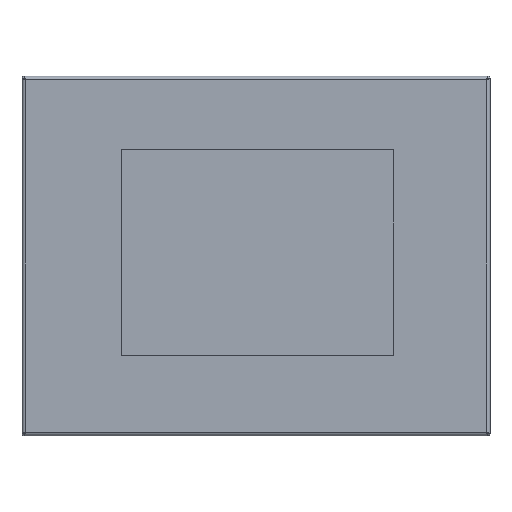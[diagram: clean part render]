
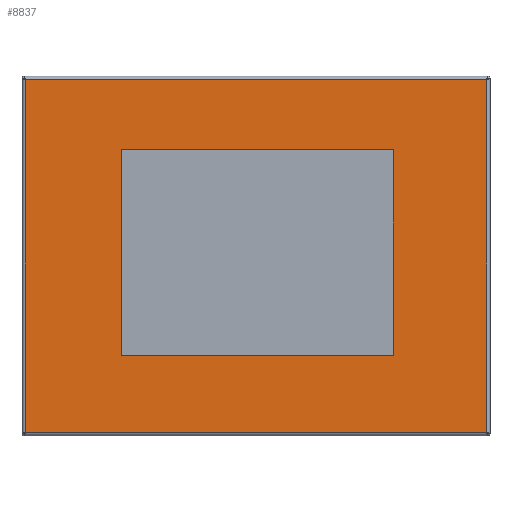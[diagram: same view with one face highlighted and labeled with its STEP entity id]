
A CAD part, top view. The second image highlights one B-rep face of the part: STEP entity #8837.
In plain terms, the highlighted planar face has unit normal (0, 0, 1).
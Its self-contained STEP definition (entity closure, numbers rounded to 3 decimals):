
#7988 = CYLINDRICAL_SURFACE('',#7989,1.5);
#7989 = AXIS2_PLACEMENT_3D('',#7990,#7991,#7992);
#7990 = CARTESIAN_POINT('',(-194.,145.5,4.5));
#7991 = DIRECTION('',(1.,0.,0.));
#7992 = DIRECTION('',(0.,1.,0.));
#8087 = VERTEX_POINT('',#8088);
#8088 = CARTESIAN_POINT('',(-192.5,145.5,6.));
#8178 = EDGE_CURVE('',#8087,#8179,#8181,.T.);
#8179 = VERTEX_POINT('',#8180);
#8180 = CARTESIAN_POINT('',(7.5,145.5,6.));
#8181 = SURFACE_CURVE('',#8182,(#8186,#8193),.PCURVE_S1.);
#8182 = LINE('',#8183,#8184);
#8183 = CARTESIAN_POINT('',(-194.,145.5,6.));
#8184 = VECTOR('',#8185,1.);
#8185 = DIRECTION('',(1.,0.,0.));
#8186 = PCURVE('',#7988,#8187);
#8187 = DEFINITIONAL_REPRESENTATION('',(#8188),#8192);
#8188 = LINE('',#8189,#8190);
#8189 = CARTESIAN_POINT('',(1.571,0.));
#8190 = VECTOR('',#8191,1.);
#8191 = DIRECTION('',(0.,1.));
#8192 = ( GEOMETRIC_REPRESENTATION_CONTEXT(2) 
PARAMETRIC_REPRESENTATION_CONTEXT() REPRESENTATION_CONTEXT('2D SPACE',''
  ) );
#8193 = PCURVE('',#8194,#8199);
#8194 = PLANE('',#8195);
#8195 = AXIS2_PLACEMENT_3D('',#8196,#8197,#8198);
#8196 = CARTESIAN_POINT('',(-92.5,69.,6.));
#8197 = DIRECTION('',(-0.,-0.,-1.));
#8198 = DIRECTION('',(-1.,0.,0.));
#8199 = DEFINITIONAL_REPRESENTATION('',(#8200),#8204);
#8200 = LINE('',#8201,#8202);
#8201 = CARTESIAN_POINT('',(101.5,76.5));
#8202 = VECTOR('',#8203,1.);
#8203 = DIRECTION('',(-1.,0.));
#8204 = ( GEOMETRIC_REPRESENTATION_CONTEXT(2) 
PARAMETRIC_REPRESENTATION_CONTEXT() REPRESENTATION_CONTEXT('2D SPACE',''
  ) );
#8753 = CYLINDRICAL_SURFACE('',#8754,1.5);
#8754 = AXIS2_PLACEMENT_3D('',#8755,#8756,#8757);
#8755 = CARTESIAN_POINT('',(-192.5,-9.,4.5));
#8756 = DIRECTION('',(0.,1.,0.));
#8757 = DIRECTION('',(-1.,0.,0.));
#8810 = CYLINDRICAL_SURFACE('',#8811,1.5);
#8811 = AXIS2_PLACEMENT_3D('',#8812,#8813,#8814);
#8812 = CARTESIAN_POINT('',(7.5,147.,4.5));
#8813 = DIRECTION('',(0.,-1.,0.));
#8814 = DIRECTION('',(1.,0.,0.));
#8837 = ADVANCED_FACE('',(#8838,#8913),#8194,.F.);
#8838 = FACE_BOUND('',#8839,.F.);
#8839 = EDGE_LOOP('',(#8840,#8863,#8864,#8887));
#8840 = ORIENTED_EDGE('',*,*,#8841,.T.);
#8841 = EDGE_CURVE('',#8842,#8087,#8844,.T.);
#8842 = VERTEX_POINT('',#8843);
#8843 = CARTESIAN_POINT('',(-192.5,-7.5,6.));
#8844 = SURFACE_CURVE('',#8845,(#8849,#8856),.PCURVE_S1.);
#8845 = LINE('',#8846,#8847);
#8846 = CARTESIAN_POINT('',(-192.5,-9.,6.));
#8847 = VECTOR('',#8848,1.);
#8848 = DIRECTION('',(0.,1.,0.));
#8849 = PCURVE('',#8194,#8850);
#8850 = DEFINITIONAL_REPRESENTATION('',(#8851),#8855);
#8851 = LINE('',#8852,#8853);
#8852 = CARTESIAN_POINT('',(100.,-78.));
#8853 = VECTOR('',#8854,1.);
#8854 = DIRECTION('',(0.,1.));
#8855 = ( GEOMETRIC_REPRESENTATION_CONTEXT(2) 
PARAMETRIC_REPRESENTATION_CONTEXT() REPRESENTATION_CONTEXT('2D SPACE',''
  ) );
#8856 = PCURVE('',#8753,#8857);
#8857 = DEFINITIONAL_REPRESENTATION('',(#8858),#8862);
#8858 = LINE('',#8859,#8860);
#8859 = CARTESIAN_POINT('',(1.571,0.));
#8860 = VECTOR('',#8861,1.);
#8861 = DIRECTION('',(0.,1.));
#8862 = ( GEOMETRIC_REPRESENTATION_CONTEXT(2) 
PARAMETRIC_REPRESENTATION_CONTEXT() REPRESENTATION_CONTEXT('2D SPACE',''
  ) );
#8863 = ORIENTED_EDGE('',*,*,#8178,.T.);
#8864 = ORIENTED_EDGE('',*,*,#8865,.T.);
#8865 = EDGE_CURVE('',#8179,#8866,#8868,.T.);
#8866 = VERTEX_POINT('',#8867);
#8867 = CARTESIAN_POINT('',(7.5,-7.5,6.));
#8868 = SURFACE_CURVE('',#8869,(#8873,#8880),.PCURVE_S1.);
#8869 = LINE('',#8870,#8871);
#8870 = CARTESIAN_POINT('',(7.5,147.,6.));
#8871 = VECTOR('',#8872,1.);
#8872 = DIRECTION('',(0.,-1.,0.));
#8873 = PCURVE('',#8194,#8874);
#8874 = DEFINITIONAL_REPRESENTATION('',(#8875),#8879);
#8875 = LINE('',#8876,#8877);
#8876 = CARTESIAN_POINT('',(-100.,78.));
#8877 = VECTOR('',#8878,1.);
#8878 = DIRECTION('',(0.,-1.));
#8879 = ( GEOMETRIC_REPRESENTATION_CONTEXT(2) 
PARAMETRIC_REPRESENTATION_CONTEXT() REPRESENTATION_CONTEXT('2D SPACE',''
  ) );
#8880 = PCURVE('',#8810,#8881);
#8881 = DEFINITIONAL_REPRESENTATION('',(#8882),#8886);
#8882 = LINE('',#8883,#8884);
#8883 = CARTESIAN_POINT('',(1.571,0.));
#8884 = VECTOR('',#8885,1.);
#8885 = DIRECTION('',(0.,1.));
#8886 = ( GEOMETRIC_REPRESENTATION_CONTEXT(2) 
PARAMETRIC_REPRESENTATION_CONTEXT() REPRESENTATION_CONTEXT('2D SPACE',''
  ) );
#8887 = ORIENTED_EDGE('',*,*,#8888,.T.);
#8888 = EDGE_CURVE('',#8866,#8842,#8889,.T.);
#8889 = SURFACE_CURVE('',#8890,(#8894,#8901),.PCURVE_S1.);
#8890 = LINE('',#8891,#8892);
#8891 = CARTESIAN_POINT('',(9.,-7.5,6.));
#8892 = VECTOR('',#8893,1.);
#8893 = DIRECTION('',(-1.,0.,0.));
#8894 = PCURVE('',#8194,#8895);
#8895 = DEFINITIONAL_REPRESENTATION('',(#8896),#8900);
#8896 = LINE('',#8897,#8898);
#8897 = CARTESIAN_POINT('',(-101.5,-76.5));
#8898 = VECTOR('',#8899,1.);
#8899 = DIRECTION('',(1.,0.));
#8900 = ( GEOMETRIC_REPRESENTATION_CONTEXT(2) 
PARAMETRIC_REPRESENTATION_CONTEXT() REPRESENTATION_CONTEXT('2D SPACE',''
  ) );
#8901 = PCURVE('',#8902,#8907);
#8902 = CYLINDRICAL_SURFACE('',#8903,1.5);
#8903 = AXIS2_PLACEMENT_3D('',#8904,#8905,#8906);
#8904 = CARTESIAN_POINT('',(9.,-7.5,4.5));
#8905 = DIRECTION('',(-1.,0.,0.));
#8906 = DIRECTION('',(0.,0.,1.));
#8907 = DEFINITIONAL_REPRESENTATION('',(#8908),#8912);
#8908 = LINE('',#8909,#8910);
#8909 = CARTESIAN_POINT('',(-0.,0.));
#8910 = VECTOR('',#8911,1.);
#8911 = DIRECTION('',(-0.,1.));
#8912 = ( GEOMETRIC_REPRESENTATION_CONTEXT(2) 
PARAMETRIC_REPRESENTATION_CONTEXT() REPRESENTATION_CONTEXT('2D SPACE',''
  ) );
#8913 = FACE_BOUND('',#8914,.F.);
#8914 = EDGE_LOOP('',(#8915,#8945,#8973,#9001));
#8915 = ORIENTED_EDGE('',*,*,#8916,.F.);
#8916 = EDGE_CURVE('',#8917,#8919,#8921,.T.);
#8917 = VERTEX_POINT('',#8918);
#8918 = CARTESIAN_POINT('',(-151.,115.,6.));
#8919 = VERTEX_POINT('',#8920);
#8920 = CARTESIAN_POINT('',(-33.,115.,6.));
#8921 = SURFACE_CURVE('',#8922,(#8926,#8933),.PCURVE_S1.);
#8922 = LINE('',#8923,#8924);
#8923 = CARTESIAN_POINT('',(-151.,115.,6.));
#8924 = VECTOR('',#8925,1.);
#8925 = DIRECTION('',(1.,0.,0.));
#8926 = PCURVE('',#8194,#8927);
#8927 = DEFINITIONAL_REPRESENTATION('',(#8928),#8932);
#8928 = LINE('',#8929,#8930);
#8929 = CARTESIAN_POINT('',(58.5,46.));
#8930 = VECTOR('',#8931,1.);
#8931 = DIRECTION('',(-1.,0.));
#8932 = ( GEOMETRIC_REPRESENTATION_CONTEXT(2) 
PARAMETRIC_REPRESENTATION_CONTEXT() REPRESENTATION_CONTEXT('2D SPACE',''
  ) );
#8933 = PCURVE('',#8934,#8939);
#8934 = PLANE('',#8935);
#8935 = AXIS2_PLACEMENT_3D('',#8936,#8937,#8938);
#8936 = CARTESIAN_POINT('',(-151.,115.,6.));
#8937 = DIRECTION('',(0.,-1.,0.));
#8938 = DIRECTION('',(1.,0.,0.));
#8939 = DEFINITIONAL_REPRESENTATION('',(#8940),#8944);
#8940 = LINE('',#8941,#8942);
#8941 = CARTESIAN_POINT('',(0.,0.));
#8942 = VECTOR('',#8943,1.);
#8943 = DIRECTION('',(1.,0.));
#8944 = ( GEOMETRIC_REPRESENTATION_CONTEXT(2) 
PARAMETRIC_REPRESENTATION_CONTEXT() REPRESENTATION_CONTEXT('2D SPACE',''
  ) );
#8945 = ORIENTED_EDGE('',*,*,#8946,.F.);
#8946 = EDGE_CURVE('',#8947,#8917,#8949,.T.);
#8947 = VERTEX_POINT('',#8948);
#8948 = CARTESIAN_POINT('',(-151.,26.,6.));
#8949 = SURFACE_CURVE('',#8950,(#8954,#8961),.PCURVE_S1.);
#8950 = LINE('',#8951,#8952);
#8951 = CARTESIAN_POINT('',(-151.,26.,6.));
#8952 = VECTOR('',#8953,1.);
#8953 = DIRECTION('',(0.,1.,0.));
#8954 = PCURVE('',#8194,#8955);
#8955 = DEFINITIONAL_REPRESENTATION('',(#8956),#8960);
#8956 = LINE('',#8957,#8958);
#8957 = CARTESIAN_POINT('',(58.5,-43.));
#8958 = VECTOR('',#8959,1.);
#8959 = DIRECTION('',(0.,1.));
#8960 = ( GEOMETRIC_REPRESENTATION_CONTEXT(2) 
PARAMETRIC_REPRESENTATION_CONTEXT() REPRESENTATION_CONTEXT('2D SPACE',''
  ) );
#8961 = PCURVE('',#8962,#8967);
#8962 = PLANE('',#8963);
#8963 = AXIS2_PLACEMENT_3D('',#8964,#8965,#8966);
#8964 = CARTESIAN_POINT('',(-151.,26.,6.));
#8965 = DIRECTION('',(1.,0.,0.));
#8966 = DIRECTION('',(0.,1.,0.));
#8967 = DEFINITIONAL_REPRESENTATION('',(#8968),#8972);
#8968 = LINE('',#8969,#8970);
#8969 = CARTESIAN_POINT('',(0.,0.));
#8970 = VECTOR('',#8971,1.);
#8971 = DIRECTION('',(1.,0.));
#8972 = ( GEOMETRIC_REPRESENTATION_CONTEXT(2) 
PARAMETRIC_REPRESENTATION_CONTEXT() REPRESENTATION_CONTEXT('2D SPACE',''
  ) );
#8973 = ORIENTED_EDGE('',*,*,#8974,.F.);
#8974 = EDGE_CURVE('',#8975,#8947,#8977,.T.);
#8975 = VERTEX_POINT('',#8976);
#8976 = CARTESIAN_POINT('',(-33.,26.,6.));
#8977 = SURFACE_CURVE('',#8978,(#8982,#8989),.PCURVE_S1.);
#8978 = LINE('',#8979,#8980);
#8979 = CARTESIAN_POINT('',(-33.,26.,6.));
#8980 = VECTOR('',#8981,1.);
#8981 = DIRECTION('',(-1.,0.,0.));
#8982 = PCURVE('',#8194,#8983);
#8983 = DEFINITIONAL_REPRESENTATION('',(#8984),#8988);
#8984 = LINE('',#8985,#8986);
#8985 = CARTESIAN_POINT('',(-59.5,-43.));
#8986 = VECTOR('',#8987,1.);
#8987 = DIRECTION('',(1.,0.));
#8988 = ( GEOMETRIC_REPRESENTATION_CONTEXT(2) 
PARAMETRIC_REPRESENTATION_CONTEXT() REPRESENTATION_CONTEXT('2D SPACE',''
  ) );
#8989 = PCURVE('',#8990,#8995);
#8990 = PLANE('',#8991);
#8991 = AXIS2_PLACEMENT_3D('',#8992,#8993,#8994);
#8992 = CARTESIAN_POINT('',(-33.,26.,6.));
#8993 = DIRECTION('',(0.,1.,0.));
#8994 = DIRECTION('',(-1.,0.,0.));
#8995 = DEFINITIONAL_REPRESENTATION('',(#8996),#9000);
#8996 = LINE('',#8997,#8998);
#8997 = CARTESIAN_POINT('',(0.,0.));
#8998 = VECTOR('',#8999,1.);
#8999 = DIRECTION('',(1.,0.));
#9000 = ( GEOMETRIC_REPRESENTATION_CONTEXT(2) 
PARAMETRIC_REPRESENTATION_CONTEXT() REPRESENTATION_CONTEXT('2D SPACE',''
  ) );
#9001 = ORIENTED_EDGE('',*,*,#9002,.F.);
#9002 = EDGE_CURVE('',#8919,#8975,#9003,.T.);
#9003 = SURFACE_CURVE('',#9004,(#9008,#9015),.PCURVE_S1.);
#9004 = LINE('',#9005,#9006);
#9005 = CARTESIAN_POINT('',(-33.,115.,6.));
#9006 = VECTOR('',#9007,1.);
#9007 = DIRECTION('',(0.,-1.,0.));
#9008 = PCURVE('',#8194,#9009);
#9009 = DEFINITIONAL_REPRESENTATION('',(#9010),#9014);
#9010 = LINE('',#9011,#9012);
#9011 = CARTESIAN_POINT('',(-59.5,46.));
#9012 = VECTOR('',#9013,1.);
#9013 = DIRECTION('',(0.,-1.));
#9014 = ( GEOMETRIC_REPRESENTATION_CONTEXT(2) 
PARAMETRIC_REPRESENTATION_CONTEXT() REPRESENTATION_CONTEXT('2D SPACE',''
  ) );
#9015 = PCURVE('',#9016,#9021);
#9016 = PLANE('',#9017);
#9017 = AXIS2_PLACEMENT_3D('',#9018,#9019,#9020);
#9018 = CARTESIAN_POINT('',(-33.,115.,6.));
#9019 = DIRECTION('',(-1.,0.,0.));
#9020 = DIRECTION('',(0.,-1.,0.));
#9021 = DEFINITIONAL_REPRESENTATION('',(#9022),#9026);
#9022 = LINE('',#9023,#9024);
#9023 = CARTESIAN_POINT('',(0.,0.));
#9024 = VECTOR('',#9025,1.);
#9025 = DIRECTION('',(1.,0.));
#9026 = ( GEOMETRIC_REPRESENTATION_CONTEXT(2) 
PARAMETRIC_REPRESENTATION_CONTEXT() REPRESENTATION_CONTEXT('2D SPACE',''
  ) );
